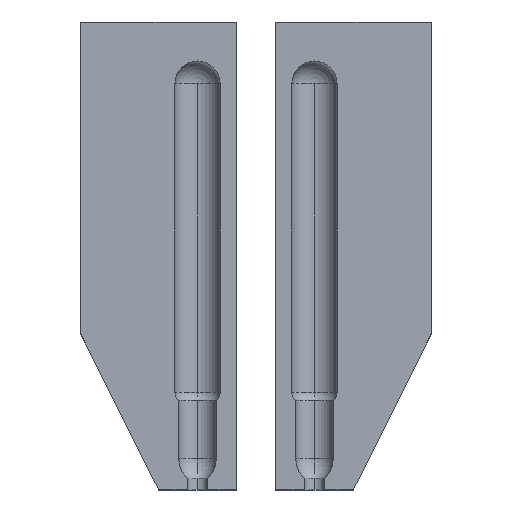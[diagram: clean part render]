
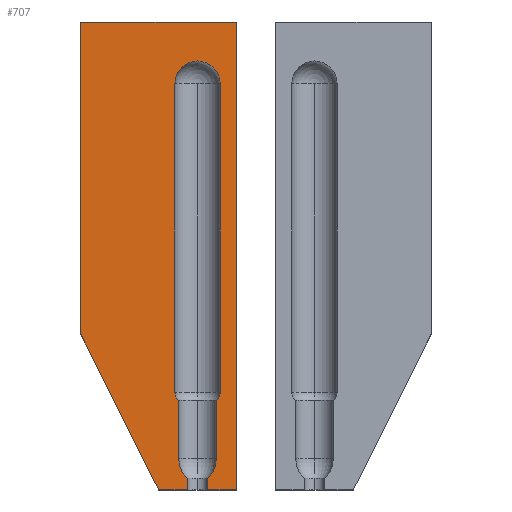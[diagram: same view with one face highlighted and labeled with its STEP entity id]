
A CAD part, top view. The second image highlights one B-rep face of the part: STEP entity #707.
In plain terms, the highlighted planar face has unit normal (0, 0, 1).
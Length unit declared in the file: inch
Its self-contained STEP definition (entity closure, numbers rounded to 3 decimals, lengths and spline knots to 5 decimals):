
#1 = EDGE_CURVE ( 'NONE', #1105, #551, #676, .T. ) ;
#12 = CARTESIAN_POINT ( 'NONE',  ( 0.26, 1.15, 0.625 ) ) ;
#21 = EDGE_CURVE ( 'NONE', #1139, #1105, #1148, .T. ) ;
#30 = CARTESIAN_POINT ( 'NONE',  ( 1., 6., 0.625 ) ) ;
#35 = DIRECTION ( 'NONE',  ( 1., 0., 0. ) ) ;
#38 = DIRECTION ( 'NONE',  ( 0., 0., 1. ) ) ;
#44 = LINE ( 'NONE', #879, #408 ) ;
#47 = ORIENTED_EDGE ( 'NONE', *, *, #613, .F. ) ;
#61 = EDGE_CURVE ( 'NONE', #167, #475, #776, .T. ) ;
#71 = CIRCLE ( 'NONE', #923, 0.125 ) ;
#87 = CARTESIAN_POINT ( 'NONE',  ( 1., 0., 0.625 ) ) ;
#93 = DIRECTION ( 'NONE',  ( 0., -1., 0. ) ) ;
#101 = CARTESIAN_POINT ( 'NONE',  ( 0.26, 0.4, 0.625 ) ) ;
#105 = DIRECTION ( 'NONE',  ( 1., 0., 0. ) ) ;
#111 = DIRECTION ( 'NONE',  ( 1., 0., 0. ) ) ;
#113 = CIRCLE ( 'NONE', #1014, 0.33909 ) ;
#119 = CARTESIAN_POINT ( 'NONE',  ( 0., 0., 0.625 ) ) ;
#128 = DIRECTION ( 'NONE',  ( 0., 1., 0. ) ) ;
#129 = VERTEX_POINT ( 'NONE', #119 ) ;
#132 = LINE ( 'NONE', #779, #310 ) ;
#137 = VECTOR ( 'NONE', #456, 39.37008 ) ;
#139 = VECTOR ( 'NONE', #813, 39.37008 ) ;
#141 = CARTESIAN_POINT ( 'NONE',  ( 1., 6., 0.625 ) ) ;
#142 = VECTOR ( 'NONE', #775, 39.37008 ) ;
#147 = AXIS2_PLACEMENT_3D ( 'NONE', #567, #38, #214 ) ;
#164 = CARTESIAN_POINT ( 'NONE',  ( 0.79, 1.25, 0.625 ) ) ;
#167 = VERTEX_POINT ( 'NONE', #1028 ) ;
#172 = VERTEX_POINT ( 'NONE', #1012 ) ;
#185 = ORIENTED_EDGE ( 'NONE', *, *, #188, .F. ) ;
#188 = EDGE_CURVE ( 'NONE', #547, #956, #602, .T. ) ;
#194 = CARTESIAN_POINT ( 'NONE',  ( 0.665, 1.25, 0.625 ) ) ;
#201 = DIRECTION ( 'NONE',  ( 1., 0., 0. ) ) ;
#209 = VECTOR ( 'NONE', #128, 39.37008 ) ;
#213 = FACE_OUTER_BOUND ( 'NONE', #228, .T. ) ;
#214 = DIRECTION ( 'NONE',  ( 1., 0., 0. ) ) ;
#221 = AXIS2_PLACEMENT_3D ( 'NONE', #194, #738, #201 ) ;
#228 = EDGE_LOOP ( 'NONE', ( #185, #47, #1135, #550, #322, #440, #326, #831, #842, #749, #768, #479, #966, #977, #597, #449, #1071 ) ) ;
#238 = DIRECTION ( 'NONE',  ( 0.447, -0.894, 0. ) ) ;
#247 = CIRCLE ( 'NONE', #221, 0.125 ) ;
#285 = LINE ( 'NONE', #30, #926 ) ;
#294 = DIRECTION ( 'NONE',  ( 0., 0., -1. ) ) ;
#305 = VERTEX_POINT ( 'NONE', #347 ) ;
#310 = VECTOR ( 'NONE', #782, 39.37008 ) ;
#322 = ORIENTED_EDGE ( 'NONE', *, *, #522, .F. ) ;
#326 = ORIENTED_EDGE ( 'NONE', *, *, #21, .F. ) ;
#328 = AXIS2_PLACEMENT_3D ( 'NONE', #469, #806, #111 ) ;
#332 = LINE ( 'NONE', #541, #137 ) ;
#337 = VECTOR ( 'NONE', #654, 39.37008 ) ;
#347 = CARTESIAN_POINT ( 'NONE',  ( -1., 2., 0.625 ) ) ;
#370 = EDGE_CURVE ( 'NONE', #167, #545, #132, .T. ) ;
#375 = DIRECTION ( 'NONE',  ( 0., 1., 0. ) ) ;
#382 = DIRECTION ( 'NONE',  ( 0., 1., 0. ) ) ;
#384 = EDGE_CURVE ( 'NONE', #694, #739, #44, .T. ) ;
#394 = PLANE ( 'NONE',  #328 ) ;
#396 = CARTESIAN_POINT ( 'NONE',  ( 0.37, 0.15, 0.625 ) ) ;
#408 = VECTOR ( 'NONE', #93, 39.37008 ) ;
#415 = VERTEX_POINT ( 'NONE', #1055 ) ;
#417 = EDGE_CURVE ( 'NONE', #129, #956, #332, .T. ) ;
#435 = LINE ( 'NONE', #87, #866 ) ;
#440 = ORIENTED_EDGE ( 'NONE', *, *, #1, .F. ) ;
#441 = EDGE_CURVE ( 'NONE', #475, #1082, #435, .T. ) ;
#449 = ORIENTED_EDGE ( 'NONE', *, *, #1037, .T. ) ;
#454 = CARTESIAN_POINT ( 'NONE',  ( 0.63, 0.15, 0.625 ) ) ;
#456 = DIRECTION ( 'NONE',  ( 1., 0., 0. ) ) ;
#469 = CARTESIAN_POINT ( 'NONE',  ( 0., 0., 0.625 ) ) ;
#475 = VERTEX_POINT ( 'NONE', #1070 ) ;
#479 = ORIENTED_EDGE ( 'NONE', *, *, #61, .T. ) ;
#491 = EDGE_CURVE ( 'NONE', #1139, #172, #247, .T. ) ;
#496 = VERTEX_POINT ( 'NONE', #1075 ) ;
#500 = CARTESIAN_POINT ( 'NONE',  ( 0.79, 0., 0.625 ) ) ;
#507 = EDGE_CURVE ( 'NONE', #694, #415, #71, .T. ) ;
#522 = EDGE_CURVE ( 'NONE', #551, #415, #645, .T. ) ;
#536 = DIRECTION ( 'NONE',  ( 1., 0., 0. ) ) ;
#538 = EDGE_CURVE ( 'NONE', #1082, #932, #285, .T. ) ;
#541 = CARTESIAN_POINT ( 'NONE',  ( 0., 0., 0.625 ) ) ;
#545 = VERTEX_POINT ( 'NONE', #454 ) ;
#547 = VERTEX_POINT ( 'NONE', #396 ) ;
#550 = ORIENTED_EDGE ( 'NONE', *, *, #507, .T. ) ;
#551 = VERTEX_POINT ( 'NONE', #564 ) ;
#564 = CARTESIAN_POINT ( 'NONE',  ( 0.21, 5.21, 0.625 ) ) ;
#567 = CARTESIAN_POINT ( 'NONE',  ( 0.5, 5.21, 0.625 ) ) ;
#568 = EDGE_CURVE ( 'NONE', #496, #172, #717, .T. ) ;
#570 = CARTESIAN_POINT ( 'NONE',  ( 0.37, 0., 0.625 ) ) ;
#572 = CARTESIAN_POINT ( 'NONE',  ( -1., 6., 0.625 ) ) ;
#597 = ORIENTED_EDGE ( 'NONE', *, *, #684, .T. ) ;
#602 = LINE ( 'NONE', #844, #142 ) ;
#613 = EDGE_CURVE ( 'NONE', #739, #547, #895, .T. ) ;
#618 = CARTESIAN_POINT ( 'NONE',  ( 0.74, 0., 0.625 ) ) ;
#630 = VECTOR ( 'NONE', #375, 39.37008 ) ;
#644 = DIRECTION ( 'NONE',  ( 0., 0., 1. ) ) ;
#645 = LINE ( 'NONE', #987, #139 ) ;
#654 = DIRECTION ( 'NONE',  ( 0., -1., 0. ) ) ;
#673 = VECTOR ( 'NONE', #916, 39.37008 ) ;
#676 = CIRCLE ( 'NONE', #147, 0.29 ) ;
#684 = EDGE_CURVE ( 'NONE', #932, #305, #1015, .T. ) ;
#688 = EDGE_CURVE ( 'NONE', #545, #496, #113, .T. ) ;
#694 = VERTEX_POINT ( 'NONE', #12 ) ;
#707 = ADVANCED_FACE ( 'NONE', ( #213 ), #394, .T. ) ;
#717 = LINE ( 'NONE', #618, #630 ) ;
#738 = DIRECTION ( 'NONE',  ( 0., 0., -1. ) ) ;
#739 = VERTEX_POINT ( 'NONE', #101 ) ;
#749 = ORIENTED_EDGE ( 'NONE', *, *, #688, .F. ) ;
#759 = CARTESIAN_POINT ( 'NONE',  ( 0.79, 5.21, 0.625 ) ) ;
#768 = ORIENTED_EDGE ( 'NONE', *, *, #370, .F. ) ;
#775 = DIRECTION ( 'NONE',  ( 0., -1., 0. ) ) ;
#776 = LINE ( 'NONE', #834, #673 ) ;
#779 = CARTESIAN_POINT ( 'NONE',  ( 0.63, 0., 0.625 ) ) ;
#782 = DIRECTION ( 'NONE',  ( 0., 1., 0. ) ) ;
#806 = DIRECTION ( 'NONE',  ( 0., 0., 1. ) ) ;
#813 = DIRECTION ( 'NONE',  ( 0., -1., 0. ) ) ;
#818 = CARTESIAN_POINT ( 'NONE',  ( 0.335, 1.25, 0.625 ) ) ;
#831 = ORIENTED_EDGE ( 'NONE', *, *, #491, .T. ) ;
#834 = CARTESIAN_POINT ( 'NONE',  ( 0., 0., 0.625 ) ) ;
#842 = ORIENTED_EDGE ( 'NONE', *, *, #568, .F. ) ;
#844 = CARTESIAN_POINT ( 'NONE',  ( 0.37, 0., 0.625 ) ) ;
#866 = VECTOR ( 'NONE', #382, 39.37008 ) ;
#875 = CARTESIAN_POINT ( 'NONE',  ( 0.59909, 0.4, 0.625 ) ) ;
#879 = CARTESIAN_POINT ( 'NONE',  ( 0.26, 0., 0.625 ) ) ;
#881 = DIRECTION ( 'NONE',  ( 0., 0., 1. ) ) ;
#895 = CIRCLE ( 'NONE', #1129, 0.33909 ) ;
#898 = CARTESIAN_POINT ( 'NONE',  ( 0.40091, 0.4, 0.625 ) ) ;
#910 = LINE ( 'NONE', #1121, #1034 ) ;
#916 = DIRECTION ( 'NONE',  ( 1., 0., 0. ) ) ;
#923 = AXIS2_PLACEMENT_3D ( 'NONE', #818, #294, #35 ) ;
#926 = VECTOR ( 'NONE', #993, 39.37008 ) ;
#932 = VERTEX_POINT ( 'NONE', #572 ) ;
#956 = VERTEX_POINT ( 'NONE', #570 ) ;
#966 = ORIENTED_EDGE ( 'NONE', *, *, #441, .T. ) ;
#977 = ORIENTED_EDGE ( 'NONE', *, *, #538, .T. ) ;
#987 = CARTESIAN_POINT ( 'NONE',  ( 0.21, 0., 0.625 ) ) ;
#993 = DIRECTION ( 'NONE',  ( -1., 0., 0. ) ) ;
#1012 = CARTESIAN_POINT ( 'NONE',  ( 0.74, 1.15, 0.625 ) ) ;
#1014 = AXIS2_PLACEMENT_3D ( 'NONE', #898, #644, #105 ) ;
#1015 = LINE ( 'NONE', #1063, #337 ) ;
#1028 = CARTESIAN_POINT ( 'NONE',  ( 0.63, 0., 0.625 ) ) ;
#1034 = VECTOR ( 'NONE', #238, 39.37008 ) ;
#1037 = EDGE_CURVE ( 'NONE', #305, #129, #910, .T. ) ;
#1055 = CARTESIAN_POINT ( 'NONE',  ( 0.21, 1.25, 0.625 ) ) ;
#1063 = CARTESIAN_POINT ( 'NONE',  ( -1., 6., 0.625 ) ) ;
#1070 = CARTESIAN_POINT ( 'NONE',  ( 1., 0., 0.625 ) ) ;
#1071 = ORIENTED_EDGE ( 'NONE', *, *, #417, .T. ) ;
#1075 = CARTESIAN_POINT ( 'NONE',  ( 0.74, 0.4, 0.625 ) ) ;
#1082 = VERTEX_POINT ( 'NONE', #141 ) ;
#1105 = VERTEX_POINT ( 'NONE', #759 ) ;
#1121 = CARTESIAN_POINT ( 'NONE',  ( -1., 2., 0.625 ) ) ;
#1129 = AXIS2_PLACEMENT_3D ( 'NONE', #875, #881, #536 ) ;
#1135 = ORIENTED_EDGE ( 'NONE', *, *, #384, .F. ) ;
#1139 = VERTEX_POINT ( 'NONE', #164 ) ;
#1148 = LINE ( 'NONE', #500, #209 ) ;
